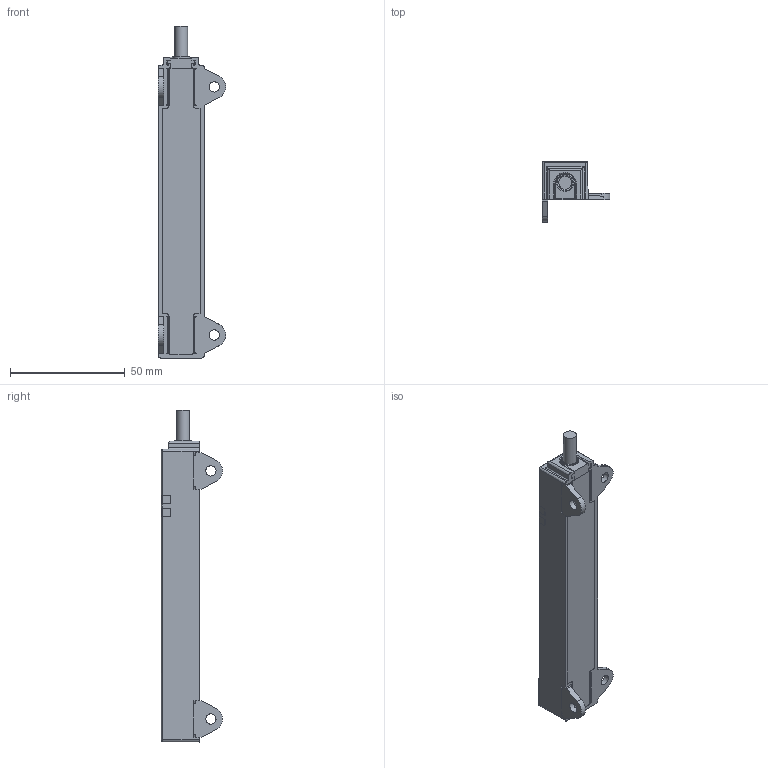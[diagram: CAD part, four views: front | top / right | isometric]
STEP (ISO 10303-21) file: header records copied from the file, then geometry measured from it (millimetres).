
FILE_DESCRIPTION((''),'2;1');
FILE_NAME('C:\TurckZip\Li100P1-Q17LM1-X2.stp','2011-09-29T10:17:08',('IKOROL'),(''),'Autodesk Inventor 2010','Autodesk Inventor 2010','');
FILE_SCHEMA(('CONFIG_CONTROL_DESIGN'));
Length unit declared in the file: millimetre
Products named in the file (1): Li100P1-Q17LM1-X2
Bounding box: 29.48 x 26.58 x 144.5 mm (x, y, z)
Volume: 41840.5 mm3; surface area: 15922.9 mm2
Topology: 1 solids, 1 shells, 537 faces, 1555 edges, 1008 vertices
Faces by surface type: plane 356, cylinder 157, cone 17, torus 7
Full cylindrical faces by diameter (mm): 4.5 x4, 5.6 x1, 7.5 x1
Entity records: 17852 total; most frequent: CARTESIAN_POINT 3316, ORIENTED_EDGE 3104, DIRECTION 2970, EDGE_CURVE 1552, VECTOR 1158, LINE 1158, VERTEX_POINT 1006, AXIS2_PLACEMENT_3D 906
